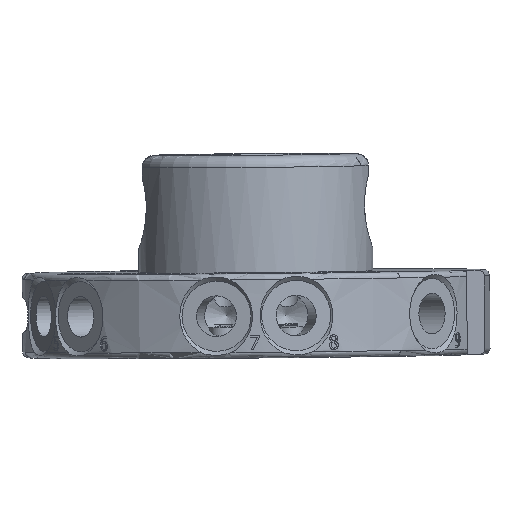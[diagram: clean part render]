
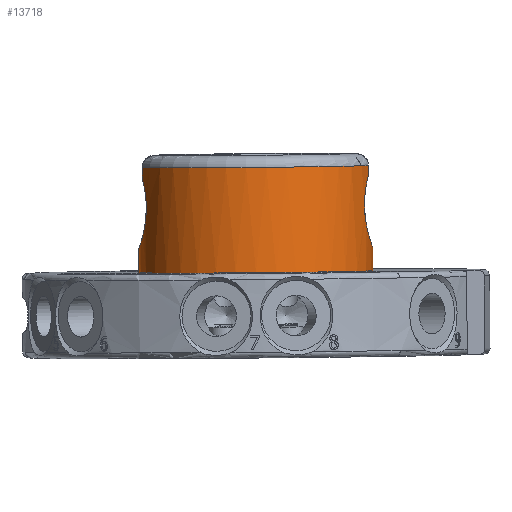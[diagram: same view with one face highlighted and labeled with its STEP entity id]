
A CAD part, left-side view. The second image highlights one B-rep face of the part: STEP entity #13718.
In plain terms, the highlighted cylindrical face has radius 25 mm (diameter 50 mm), a full revolution.
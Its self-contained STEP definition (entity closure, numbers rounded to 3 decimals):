
#880=B_SPLINE_CURVE_WITH_KNOTS('',3,(#53566,#53567,#53568,#53569,#53570,
#53571,#53572,#53573,#53574,#53575,#53576,#53577,#53578,#53579),
 .UNSPECIFIED.,.F.,.F.,(4,2,2,2,2,2,4),(1.369,1.712,
2.054,2.396,2.739,3.081,3.375),
 .UNSPECIFIED.);
#881=B_SPLINE_CURVE_WITH_KNOTS('',3,(#53580,#53581,#53582,#53583,#53584,
#53585,#53586,#53587,#53588,#53589,#53590,#53591,#53592,#53593,#53594),
 .UNSPECIFIED.,.F.,.F.,(4,2,3,2,2,2,4),(-0.636,-0.342,
0.,0.342,0.685,1.027,1.369),
 .UNSPECIFIED.);
#882=B_SPLINE_CURVE_WITH_KNOTS('',3,(#53596,#53597,#53598,#53599,#53600,
#53601,#53602,#53603,#53604,#53605,#53606,#53607,#53608,#53609,#53610,#53611,
#53612,#53613,#53614,#53615,#53616,#53617,#53618,#53619,#53620,#53621,#53622,
#53623,#53624,#53625,#53626),.UNSPECIFIED.,.F.,.F.,(4,2,2,2,2,2,2,2,2,2,
2,3,2,2,4),(-3.447,-3.424,-3.081,-2.739,
-2.396,-2.054,-1.712,-1.369,
-1.027,-0.685,-0.342,0.,0.342,
0.685,0.708),.UNSPECIFIED.);
#2197=FACE_OUTER_BOUND('',#3034,.T.);
#3034=EDGE_LOOP('',(#12179,#12180,#12181,#12182,#12183,#12184,#12185,#12186,
#12187,#12188,#12189,#12190));
#3298=CIRCLE('',#14385,25.);
#3397=CIRCLE('',#14606,25.);
#3398=CIRCLE('',#14607,25.);
#3906=LINE('',#21819,#4733);
#3910=LINE('',#21889,#4737);
#4230=LINE('',#53512,#5057);
#4234=LINE('',#53540,#5061);
#4236=LINE('',#53629,#5063);
#4733=VECTOR('',#15948,10.);
#4737=VECTOR('',#15960,10.);
#5057=VECTOR('',#17118,10.);
#5061=VECTOR('',#17134,10.);
#5063=VECTOR('',#17164,25.);
#5782=VERTEX_POINT('',#21809);
#5783=VERTEX_POINT('',#21818);
#5790=VERTEX_POINT('',#21879);
#5791=VERTEX_POINT('',#21888);
#6237=VERTEX_POINT('',#52661);
#6348=VERTEX_POINT('',#53509);
#6349=VERTEX_POINT('',#53511);
#6352=VERTEX_POINT('',#53537);
#6353=VERTEX_POINT('',#53539);
#6358=VERTEX_POINT('',#53565);
#7406=EDGE_CURVE('',#5783,#5782,#3906,.T.);
#7417=EDGE_CURVE('',#5791,#5790,#3910,.T.);
#8074=EDGE_CURVE('',#6237,#6237,#3298,.T.);
#8284=EDGE_CURVE('',#6349,#6348,#4230,.T.);
#8292=EDGE_CURVE('',#6353,#6352,#4234,.T.);
#8301=EDGE_CURVE('',#6358,#5783,#880,.T.);
#8302=EDGE_CURVE('',#6352,#6358,#881,.T.);
#8303=EDGE_CURVE('',#6348,#5791,#882,.T.);
#8304=EDGE_CURVE('',#6353,#5790,#3397,.T.);
#8305=EDGE_CURVE('',#6358,#6237,#4236,.T.);
#8306=EDGE_CURVE('',#6349,#5782,#3398,.T.);
#12179=ORIENTED_EDGE('',*,*,#8284,.T.);
#12180=ORIENTED_EDGE('',*,*,#8303,.T.);
#12181=ORIENTED_EDGE('',*,*,#7417,.T.);
#12182=ORIENTED_EDGE('',*,*,#8304,.F.);
#12183=ORIENTED_EDGE('',*,*,#8292,.T.);
#12184=ORIENTED_EDGE('',*,*,#8302,.T.);
#12185=ORIENTED_EDGE('',*,*,#8305,.T.);
#12186=ORIENTED_EDGE('',*,*,#8074,.T.);
#12187=ORIENTED_EDGE('',*,*,#8305,.F.);
#12188=ORIENTED_EDGE('',*,*,#8301,.T.);
#12189=ORIENTED_EDGE('',*,*,#7406,.T.);
#12190=ORIENTED_EDGE('',*,*,#8306,.F.);
#12307=CYLINDRICAL_SURFACE('',#14605,25.);
#13718=ADVANCED_FACE('',(#2197),#12307,.T.);
#14385=AXIS2_PLACEMENT_3D('',#52662,#16624,#16625);
#14605=AXIS2_PLACEMENT_3D('',#53627,#17160,#17161);
#14606=AXIS2_PLACEMENT_3D('',#53628,#17162,#17163);
#14607=AXIS2_PLACEMENT_3D('',#53630,#17165,#17166);
#15948=DIRECTION('',(-0.01,0.009,1.));
#15960=DIRECTION('',(-0.01,0.009,1.));
#16624=DIRECTION('center_axis',(-0.01,0.009,
1.));
#16625=DIRECTION('ref_axis',(1.,0.,0.01));
#17118=DIRECTION('',(0.01,-0.009,-1.));
#17134=DIRECTION('',(0.01,-0.009,-1.));
#17160=DIRECTION('center_axis',(-0.01,0.009,
1.));
#17161=DIRECTION('ref_axis',(0.,-1.,0.009));
#17162=DIRECTION('center_axis',(-0.01,0.009,
1.));
#17163=DIRECTION('ref_axis',(0.,-1.,0.009));
#17164=DIRECTION('',(0.01,-0.009,-1.));
#17165=DIRECTION('center_axis',(-0.01,0.009,
1.));
#17166=DIRECTION('ref_axis',(0.,-1.,0.009));
#21809=CARTESIAN_POINT('',(8.187,32.835,15.096));
#21818=CARTESIAN_POINT('',(8.211,32.813,12.605));
#21819=CARTESIAN_POINT('',(8.327,32.708,0.664));
#21879=CARTESIAN_POINT('',(-4.714,-15.469,15.393));
#21888=CARTESIAN_POINT('',(-4.695,-15.486,13.417));
#21889=CARTESIAN_POINT('',(-4.574,-15.595,0.961));
#52661=CARTESIAN_POINT('',(1.706,33.552,-7.475));
#52662=CARTESIAN_POINT('Origin',(1.705,8.553,-7.257));
#53509=CARTESIAN_POINT('',(7.704,-15.485,13.538));
#53511=CARTESIAN_POINT('',(7.685,-15.468,15.514));
#53512=CARTESIAN_POINT('',(7.825,-15.594,1.082));
#53537=CARTESIAN_POINT('',(-5.188,32.812,12.475));
#53539=CARTESIAN_POINT('',(-5.212,32.834,14.966));
#53540=CARTESIAN_POINT('',(-5.072,32.708,0.534));
#53565=CARTESIAN_POINT('',(1.657,33.596,-2.476));
#53566=CARTESIAN_POINT('Ctrl Pts',(1.657,33.596,-2.476));
#53567=CARTESIAN_POINT('Ctrl Pts',(2.798,33.596,-2.465));
#53568=CARTESIAN_POINT('Ctrl Pts',(4.006,33.512,-2.222));
#53569=CARTESIAN_POINT('Ctrl Pts',(6.212,33.211,-1.276));
#53570=CARTESIAN_POINT('Ctrl Pts',(7.21,32.997,-0.574));
#53571=CARTESIAN_POINT('Ctrl Pts',(8.781,32.594,1.032));
#53572=CARTESIAN_POINT('Ctrl Pts',(9.462,32.376,2.046));
#53573=CARTESIAN_POINT('Ctrl Pts',(10.362,32.071,4.271));
#53574=CARTESIAN_POINT('Ctrl Pts',(10.581,31.989,5.484));
#53575=CARTESIAN_POINT('Ctrl Pts',(10.558,32.009,7.767));
#53576=CARTESIAN_POINT('Ctrl Pts',(10.316,32.112,8.974));
#53577=CARTESIAN_POINT('Ctrl Pts',(9.441,32.431,11.017));
#53578=CARTESIAN_POINT('Ctrl Pts',(8.872,32.625,11.885));
#53579=CARTESIAN_POINT('Ctrl Pts',(8.211,32.813,12.605));
#53580=CARTESIAN_POINT('Ctrl Pts',(-5.188,32.812,12.475));
#53581=CARTESIAN_POINT('Ctrl Pts',(-5.834,32.624,11.742));
#53582=CARTESIAN_POINT('Ctrl Pts',(-6.387,32.431,10.863));
#53583=CARTESIAN_POINT('Ctrl Pts',(-7.222,32.111,8.803));
#53584=CARTESIAN_POINT('Ctrl Pts',(-7.441,32.008,7.592));
#53585=CARTESIAN_POINT('Ctrl Pts',(-7.43,31.998,6.451));
#53586=CARTESIAN_POINT('Ctrl Pts',(-7.419,31.988,5.309));
#53587=CARTESIAN_POINT('Ctrl Pts',(-7.177,32.07,4.101));
#53588=CARTESIAN_POINT('Ctrl Pts',(-6.234,32.375,1.893));
#53589=CARTESIAN_POINT('Ctrl Pts',(-5.533,32.593,0.893));
#53590=CARTESIAN_POINT('Ctrl Pts',(-3.931,32.997,-0.682));
#53591=CARTESIAN_POINT('Ctrl Pts',(-2.919,33.211,-1.365));
#53592=CARTESIAN_POINT('Ctrl Pts',(-0.696,33.512,
-2.268));
#53593=CARTESIAN_POINT('Ctrl Pts',(0.517,33.596,-2.487));
#53594=CARTESIAN_POINT('Ctrl Pts',(1.657,33.596,-2.476));
#53596=CARTESIAN_POINT('Ctrl Pts',(7.704,-15.485,13.538));
#53597=CARTESIAN_POINT('Ctrl Pts',(7.76,-15.472,13.485));
#53598=CARTESIAN_POINT('Ctrl Pts',(7.815,-15.458,13.432));
#53599=CARTESIAN_POINT('Ctrl Pts',(8.671,-15.242,12.591));
#53600=CARTESIAN_POINT('Ctrl Pts',(9.371,-15.025,11.591));
#53601=CARTESIAN_POINT('Ctrl Pts',(10.314,-14.719,9.383));
#53602=CARTESIAN_POINT('Ctrl Pts',(10.556,-14.637,8.175));
#53603=CARTESIAN_POINT('Ctrl Pts',(10.579,-14.657,5.892));
#53604=CARTESIAN_POINT('Ctrl Pts',(10.36,-14.76,4.681));
#53605=CARTESIAN_POINT('Ctrl Pts',(9.46,-15.104,2.461));
#53606=CARTESIAN_POINT('Ctrl Pts',(8.779,-15.34,1.452));
#53607=CARTESIAN_POINT('Ctrl Pts',(7.208,-15.771,-0.147));
#53608=CARTESIAN_POINT('Ctrl Pts',(6.21,-15.997,-0.846));
#53609=CARTESIAN_POINT('Ctrl Pts',(4.004,-16.315,-1.786));
#53610=CARTESIAN_POINT('Ctrl Pts',(2.796,-16.402,-2.027));
#53611=CARTESIAN_POINT('Ctrl Pts',(0.514,-16.402,-2.049));
#53612=CARTESIAN_POINT('Ctrl Pts',(-0.698,-16.315,
-1.832));
#53613=CARTESIAN_POINT('Ctrl Pts',(-2.921,-15.998,-0.934));
#53614=CARTESIAN_POINT('Ctrl Pts',(-3.933,-15.772,
-0.255));
#53615=CARTESIAN_POINT('Ctrl Pts',(-5.535,-15.34,1.312));
#53616=CARTESIAN_POINT('Ctrl Pts',(-6.236,-15.105,
2.309));
#53617=CARTESIAN_POINT('Ctrl Pts',(-7.179,-14.761,
4.511));
#53618=CARTESIAN_POINT('Ctrl Pts',(-7.421,-14.658,5.717));
#53619=CARTESIAN_POINT('Ctrl Pts',(-7.432,-14.648,6.859));
#53620=CARTESIAN_POINT('Ctrl Pts',(-7.443,-14.638,
8.));
#53621=CARTESIAN_POINT('Ctrl Pts',(-7.224,-14.72,
9.213));
#53622=CARTESIAN_POINT('Ctrl Pts',(-6.324,-15.025,
11.439));
#53623=CARTESIAN_POINT('Ctrl Pts',(-5.643,-15.243,12.452));
#53624=CARTESIAN_POINT('Ctrl Pts',(-4.804,-15.458,
13.31));
#53625=CARTESIAN_POINT('Ctrl Pts',(-4.75,-15.472,
13.364));
#53626=CARTESIAN_POINT('Ctrl Pts',(-4.695,-15.486,
13.417));
#53627=CARTESIAN_POINT('Origin',(1.627,8.623,0.81));
#53628=CARTESIAN_POINT('Origin',(1.486,8.75,15.241));
#53629=CARTESIAN_POINT('',(1.628,33.623,0.591));
#53630=CARTESIAN_POINT('Origin',(1.486,8.75,15.241));
